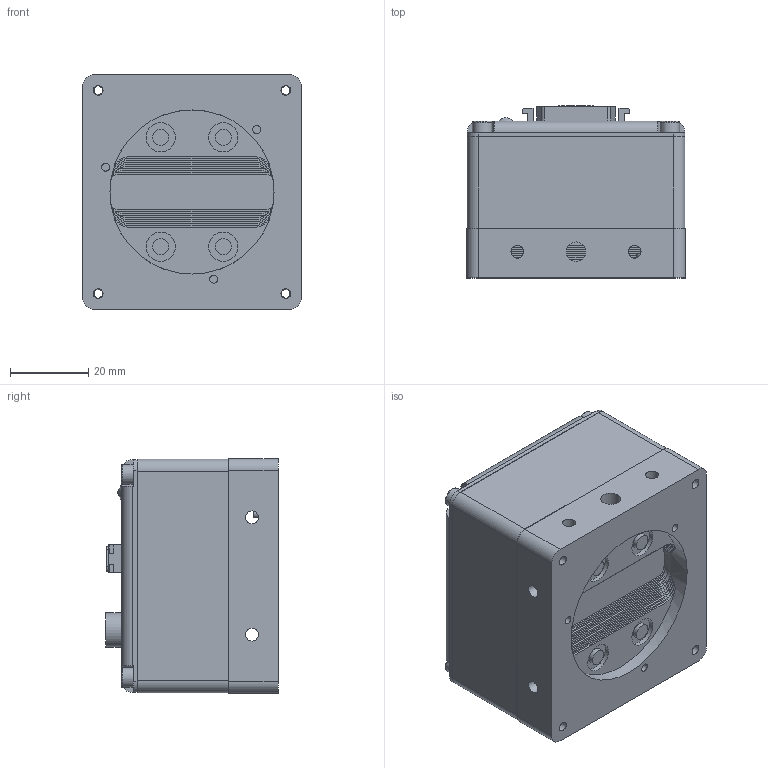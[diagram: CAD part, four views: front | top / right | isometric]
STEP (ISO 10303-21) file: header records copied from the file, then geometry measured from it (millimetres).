
FILE_DESCRIPTION (( 'STEP AP203' ), '1' );
FILE_NAME ('AVIIVA_SC2.STEP', '2012-09-28T13:46:03', ( 'e2v' ), ( 'Microsoft' ), 'SwSTEP 2.0', 'SolidWorks 2012', '' );
FILE_SCHEMA (( 'CONFIG_CONTROL_DESIGN' ));
Length unit declared in the file: millimetre
Products named in the file (1): AVIIVA_SC2
Bounding box: 56 x 44.1 x 60 mm (x, y, z)
Surface area: 20367.7 mm2 (no closed solid volume)
Topology: 0 solids, 10 shells, 263 faces, 754 edges, 513 vertices
Faces by surface type: plane 151, cylinder 107, torus 4, bspline 1
Full cylindrical faces by diameter (mm): 2.05 x5, 2.5 x4, 3.3 x8, 4.1 x4, 5 x5, 7.5 x4, 7.55 x1, 8.85 x1, 42 x1
Entity records: 8619 total; most frequent: CARTESIAN_POINT 1564, DIRECTION 1516, ORIENTED_EDGE 1310, EDGE_CURVE 716, AXIS2_PLACEMENT_3D 538, VERTEX_POINT 512, LINE 440, VECTOR 440
